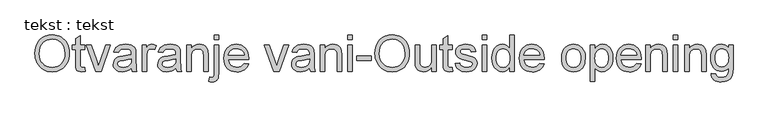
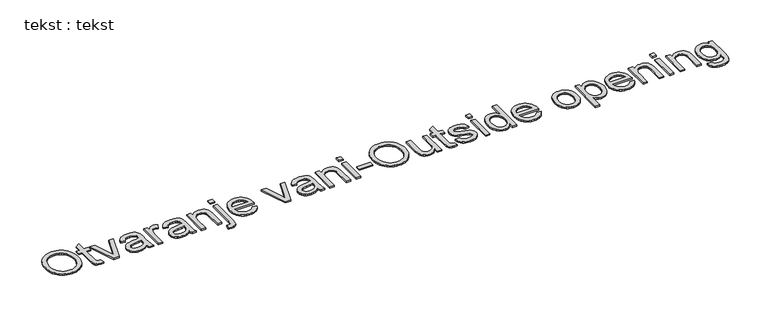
"""IFC4 building model written with IfcOpenShell, lengths in millimetres: proxy geometry, tekst : tekst."""

from ifc_helpers import new_model, si_unit, origin, origin_with_axes, place, context, project, spatial, polyline, outline, extrude, source, transform, mapped, element, save


def tekst_tekst_52195aea(model_context):
    return source(origin(), model_context, "Body", "SweptSolid", [
        extrude(outline(polyline([(-1365.7671405, 247.5300196), (-1361.5824828, 306.4447883), (-1349.0285097, 358.5997253), (-1328.1052212, 403.9948307), (-1298.8126173, 442.6301044), (-1262.9058018, 473.4785425), (-1222.1398782, 495.5131412), (-1176.5148466, 508.7339004), (-1126.0307069, 513.1408201), (-1092.2392128, 511.0714839), (-1060.149173, 504.8634752), (-1029.7605873, 494.5167941), (-1001.0734559, 480.0314405), (-974.8925206, 461.8442744), (-952.0225232, 440.3921556), (-932.4634638, 415.675084), (-916.2153424, 387.6930597), (-903.4467714, 357.0822121), (-894.3263636, 324.4786702), (-888.854119, 289.8824343), (-887.0300374, 253.2935042), (-888.9499216, 216.221729), (-894.7095741, 181.1579763), (-904.3089949, 148.1022462), (-917.748184, 117.0545386), (-934.7090768, 88.8349239), (-954.8736087, 64.2634723), (-978.2417796, 43.3401838), (-1004.8135895, 26.0650585), (-1033.5428741, 12.5453952), (-1063.3834688, 2.8884928), (-1094.3353738, -2.9056486), (-1126.3985889, -4.8370291), (-1160.7802271, -2.7025471), (-1193.2917984, 3.7008989), (-1223.9333029, 14.3733088), (-1252.7047406, 29.3146828), (-1278.8550191, 47.946373), (-1301.633046, 69.6897317), (-1321.0388212, 94.544759), (-1337.0723448, 122.5114549), (-1349.6263179, 152.4670128), (-1358.5934416, 183.2886262), (-1363.9737157, 214.9762951), (-1365.7671405, 247.5300196)]), holes=[polyline([(-1302.9819466, 246.9168829), (-1299.8434533, 205.292568), (-1290.4279735, 168.3434201), (-1274.7355072, 136.0694393), (-1252.7660543, 108.4706254), (-1226.0601207, 86.3670489), (-1196.1582123, 70.5787799), (-1163.060329, 61.1058185), (-1126.7664709, 57.9481647), (-1089.851812, 61.1364754), (-1056.3630541, 70.7014072), (-1026.3001973, 86.6429604), (-999.6632416, 108.9611347), (-977.8547371, 137.1424284), (-962.2772338, 170.6733394), (-952.9307319, 209.5538678), (-949.8152312, 253.7840135), (-955.1495202, 309.3648516), (-971.152387, 357.4041088), (-983.0510702, 378.2929083), (-997.4099644, 396.6908402), (-1014.2290693, 412.5979044), (-1033.5083851, 426.0141009), (-1054.6501036, 436.6635183), (-1077.0564163, 444.2702449), (-1100.7273235, 448.8342809), (-1125.6628249, 450.3556263), (-1160.6959208, 447.4240666), (-1193.1998279, 438.6293877), (-1223.1745463, 423.9715894), (-1250.620076, 403.4506719), (-1273.5283944, 376.0779522), (-1289.891479, 340.8647474), (-1299.7093297, 297.8110577), (-1302.9819466, 246.9168829)])]), origin_with_axes(), (0.0, 0.0, 1.0), 20.0),
        extrude(outline(polyline([(-675.1300082, 55.3729908), (-667.2818589, 1.1717101), (-714.248127, -4.8370291), (-744.3837938, -2.2311983), (-766.8552523, 5.5862941), (-782.7354918, 17.6344294), (-793.0975013, 32.9321891), (-798.7996722, 59.2050949), (-800.7003959, 104.1786688), (-800.7003959, 309.0889401), (-847.7892912, 309.0889401), (-847.7892912, 371.874134), (-800.7003959, 371.874134), (-800.7003959, 461.5147134), (-737.915202, 498.4255403), (-737.915202, 371.874134), (-675.1300082, 371.874134), (-675.1300082, 309.0889401), (-737.915202, 309.0889401), (-737.915202, 106.0180788), (-734.6042641, 73.6444632), (-723.8743725, 62.1788077), (-702.4759032, 57.9481647), (-675.1300082, 55.3729908)])), origin_with_axes(), (0.0, 0.0, 1.0), 20.0),
        extrude(outline(polyline([(-521.8458435, 3.0111201), (-651.5855605, 371.874134), (-585.1215467, 371.874134), (-506.5174271, 150.8996822), (-482.850352, 76.5875192), (-459.6737863, 146.7303529), (-380.5791574, 371.874134), (-314.1151436, 371.874134), (-442.2607052, 3.0111201), (-521.8458435, 3.0111201)])), origin_with_axes(), (0.0, 0.0, 1.0), 20.0),
        extrude(outline(polyline([(-23.7336221, 50.1000155), (-53.7313331, 24.3789327), (-84.6180923, 7.5483314), (-117.0990067, -1.740689), (-151.8791837, -4.8370291), (-179.8343832, -2.9746265), (-204.3483533, 2.6125813), (-225.4210938, 11.9245943), (-243.0526048, 24.9614125), (-256.9746391, 40.8953014), (-266.9189493, 58.8985266), (-272.8855354, 78.9710879), (-274.8743974, 101.1129855), (-271.8700278, 127.1406367), (-262.8569189, 150.7770549), (-248.9540452, 171.0105646), (-231.280381, 186.8294904), (-210.5103767, 198.7856552), (-187.3184826, 207.4308821), (-132.9945746, 216.8731867), (-68.7991665, 226.8060005), (-24.101504, 238.455597), (-23.7336221, 252.4351129), (-28.0562355, 280.4554582), (-41.0240758, 298.7882442), (-54.0992151, 306.728364), (-70.0254398, 312.3998781), (-110.4311456, 316.9370893), (-147.8324818, 313.9173913), (-173.9521034, 304.8582972), (-191.7637233, 288.104338), (-204.2410544, 262.0000447), (-267.0262482, 269.848194), (-256.1277441, 304.1838468), (-239.8642942, 331.1618598), (-216.7183854, 351.7939084), (-185.1725043, 367.091668), (-146.59088, 376.5646294), (-102.3377417, 379.7222832), (-59.8933565, 376.9325114), (-26.2474824, 368.563196), (-0.8789531, 355.9785661), (16.7333974, 340.5428507), (28.4136508, 321.4589722), (35.9858885, 297.9298529), (39.0515718, 242.9928083), (39.0515718, 164.879198), (42.2398824, 55.8021864), (46.9610347, 28.8395019), (54.7478703, 3.0111201), (-8.0373236, 3.0111201), (-18.0927648, 24.8387852), (-23.7336221, 50.1000155)]), holes=[polyline([(-23.7336221, 175.6704032), (-65.9174242, 165.2164232), (-125.0237981, 156.4179121), (-179.0411377, 146.2398436), (-193.0972956, 139.2807425), (-203.5052904, 129.6851538), (-209.9432253, 118.1888414), (-212.0892036, 105.5275694), (-207.4140366, 86.8575582), (-193.3885355, 71.5597986), (-170.3192687, 61.3510732), (-138.5128045, 57.9481647), (-104.7902883, 61.7036268), (-74.9918467, 72.9700129), (-50.8342624, 89.5706879), (-34.0343179, 109.3290167), (-26.5847075, 129.6851538), (-24.101504, 157.8894401), (-23.7336221, 175.6704032)])]), origin_with_axes(), (0.0, 0.0, 1.0), 20.0),
        extrude(outline(polyline([(125.3812133, 3.0111201), (125.3812133, 371.874134), (180.3182579, 371.874134), (180.3182579, 317.3049713), (200.6130813, 348.9428229), (219.3137494, 367.5821773), (238.0757312, 376.6872567), (258.5544956, 379.7222832), (289.8244652, 374.8785036), (321.5849441, 360.3471648), (300.6156704, 304.0612195), (278.5427507, 313.7181219), (256.4698309, 316.9370893), (237.7231776, 313.8407492), (220.9692184, 304.5517288), (207.4342267, 289.7751354), (198.3444757, 270.216076), (190.7109243, 235.1446591), (188.1664072, 196.8849316), (188.1664072, 3.0111201), (125.3812133, 3.0111201)])), origin_with_axes(), (0.0, 0.0, 1.0), 20.0),
        extrude(outline(polyline([(596.2701672, 50.1000155), (566.2724561, 24.3789327), (535.385697, 7.5483314), (502.9047825, -1.740689), (468.1246055, -4.8370291), (440.169406, -2.9746265), (415.6554359, 2.6125813), (394.5826954, 11.9245943), (376.9511844, 24.9614125), (363.0291501, 40.8953014), (353.0848399, 58.8985266), (347.1182538, 78.9710879), (345.1293918, 101.1129855), (348.1337614, 127.1406367), (357.1468703, 150.7770549), (371.049744, 171.0105646), (388.7234082, 186.8294904), (409.4934125, 198.7856552), (432.6853066, 207.4308821), (487.0092146, 216.8731867), (551.2046227, 226.8060005), (595.9022852, 238.455597), (596.2701672, 252.4351129), (591.9475537, 280.4554582), (578.9797134, 298.7882442), (565.9045741, 306.728364), (549.9783494, 312.3998781), (509.5726436, 316.9370893), (472.1713074, 313.9173913), (446.0516858, 304.8582972), (428.2400659, 288.104338), (415.7627349, 262.0000447), (352.977541, 269.848194), (363.8760451, 304.1838468), (380.139495, 331.1618598), (403.2854038, 351.7939084), (434.8312849, 367.091668), (473.4129092, 376.5646294), (517.6660475, 379.7222832), (560.1104327, 376.9325114), (593.7563069, 368.563196), (619.1248361, 355.9785661), (636.7371866, 340.5428507), (648.41744, 321.4589722), (655.9896777, 297.9298529), (659.055361, 242.9928083), (659.055361, 164.879198), (662.2436716, 55.8021864), (666.9648239, 28.8395019), (674.7516595, 3.0111201), (611.9664656, 3.0111201), (601.9110244, 24.8387852), (596.2701672, 50.1000155)]), holes=[polyline([(596.2701672, 175.6704032), (554.086365, 165.2164232), (494.9799911, 156.4179121), (440.9626515, 146.2398436), (426.9064936, 139.2807425), (416.4984988, 129.6851538), (410.0605639, 118.1888414), (407.9145856, 105.5275694), (412.5897526, 86.8575582), (426.6152537, 71.5597986), (449.6845205, 61.3510732), (481.4909847, 57.9481647), (515.2135009, 61.7036268), (545.0119425, 72.9700129), (569.1695268, 89.5706879), (585.9694713, 109.3290167), (593.4190817, 129.6851538), (595.9022852, 157.8894401), (596.2701672, 175.6704032)])]), origin_with_axes(), (0.0, 0.0, 1.0), 20.0),
        extrude(outline(polyline([(745.3850025, 3.0111201), (745.3850025, 371.874134), (808.1701964, 371.874134), (808.1701964, 320.3706546), (829.982533, 346.3369921), (856.1787967, 364.884376), (886.7589876, 376.0128064), (921.7231056, 379.7222832), (952.6711784, 376.733242), (981.0134204, 367.7661183), (1004.6498386, 353.9398867), (1021.4804399, 336.3735214), (1032.9001102, 315.1130078), (1040.3037353, 290.204331), (1043.6146733, 229.5038018), (1043.6146733, 3.0111201), (980.8294794, 3.0111201), (980.8294794, 221.0425159), (979.0207263, 253.508102), (973.5944669, 276.5926972), (963.5850109, 293.1320586), (948.0266682, 305.9619432), (928.0843984, 314.1933028), (904.9231611, 316.9370893), (885.8584431, 315.3965835), (868.15029, 310.7750659), (851.7987017, 303.0725366), (836.8036783, 292.2889957), (824.27653, 277.1981697), (815.3285669, 256.5737853), (809.959789, 230.4158426), (808.1701964, 198.7243416), (808.1701964, 3.0111201), (745.3850025, 3.0111201)])), origin_with_axes(), (0.0, 0.0, 1.0), 20.0),
        extrude(outline(polyline([(1050.8496859, -138.5008207), (1064.0934377, -78.7813101), (1092.9108606, -83.3185214), (1109.266281, -80.2068529), (1120.8085786, -70.8718472), (1127.6603808, -49.0901674), (1129.9443148, -8.6384764), (1129.9443148, 371.874134), (1192.7295087, 371.874134), (1192.7295087, -16.7318803), (1188.2842679, -74.3667262), (1182.7277169, -95.4586273), (1174.9485456, -111.4001804), (1161.7967642, -126.5829769), (1144.9048493, -137.4278315), (1124.2728007, -143.9347443), (1099.9006185, -146.1037153), (1074.9459565, -144.2029916), (1050.8496859, -138.5008207)])), origin_with_axes(), (0.0, 0.0, 1.0), 20.0),
        extrude(outline(polyline([(1129.9443148, 442.507477), (1129.9443148, 505.2926709), (1192.7295087, 505.2926709), (1192.7295087, 442.507477), (1129.9443148, 442.507477)])), origin_with_axes(), (0.0, 0.0, 1.0), 20.0),
        extrude(outline(polyline([(1545.16046, 112.8852093), (1606.7193806, 105.0370601), (1597.2809081, 80.3813022), (1584.5391619, 58.6532719), (1568.494142, 39.8529691), (1549.1458483, 23.9803938), (1526.6935503, 11.3727713), (1501.3365174, 2.3673266), (1473.0747495, -3.0359402), (1441.9082467, -4.8370291), (1402.9510763, -1.7291927), (1368.2398772, 7.5943166), (1337.7746495, 23.1334988), (1311.5553931, 44.8883539), (1290.4711563, 72.2534094), (1275.4109871, 104.6231929), (1266.3748856, 141.9977043), (1263.3628517, 184.3769437), (1266.4055424, 228.1932222), (1275.5336144, 266.8131675), (1290.7470678, 300.2367796), (1312.0459024, 328.4640585), (1338.1961809, 350.8895318), (1367.9639657, 366.907727), (1401.3492568, 376.5186441), (1438.3520541, 379.7222832), (1474.1630671, 376.5263084), (1506.548179, 366.9383839), (1535.5073898, 350.9585097), (1561.0406995, 328.5866859), (1581.8835138, 300.4207206), (1596.7712383, 267.0584222), (1605.703873, 228.4997905), (1608.6814179, 184.7448257), (1608.3135359, 167.822254), (1326.1480456, 167.822254), (1329.7847124, 142.7679572), (1337.0158929, 120.8253291), (1347.841587, 101.9943695), (1362.2617948, 86.2750784), (1379.4794386, 73.8820537), (1398.6974407, 65.0298931), (1419.9158012, 59.7185968), (1443.13452, 57.9481647), (1476.5504679, 61.2284459), (1504.6934406, 71.0692892), (1527.5634379, 88.0838315), (1545.16046, 112.8852093)]), holes=[polyline([(1326.1480456, 230.6074478), (1545.896224, 230.6074478), (1537.4042813, 263.778141), (1520.757621, 287.5065297), (1503.6357798, 300.3823996), (1484.1533625, 309.5794494), (1462.310369, 315.0976794), (1438.1067994, 316.9370893), (1395.7850416, 311.0663058), (1377.3717813, 303.7278265), (1360.7902668, 293.4539553), (1346.8758967, 280.7198733), (1336.4640699, 266.0007614), (1329.5547861, 249.2966196), (1326.1480456, 230.6074478)])]), origin_with_axes(), (0.0, 0.0, 1.0), 20.0),
        extrude(outline(polyline([(1958.1693133, 3.0111201), (1828.4295963, 371.874134), (1894.8936101, 371.874134), (1973.4977298, 150.8996822), (1997.1648048, 76.5875192), (2020.3413705, 146.7303529), (2099.4359994, 371.874134), (2165.9000132, 371.874134), (2037.7544516, 3.0111201), (1958.1693133, 3.0111201)])), origin_with_axes(), (0.0, 0.0, 1.0), 20.0),
        extrude(outline(polyline([(2456.2815348, 50.1000155), (2426.2838237, 24.3789327), (2395.3970646, 7.5483314), (2362.9161501, -1.740689), (2328.1359731, -4.8370291), (2300.1807736, -2.9746265), (2275.6668036, 2.6125813), (2254.594063, 11.9245943), (2236.962552, 24.9614125), (2223.0405177, 40.8953014), (2213.0962075, 58.8985266), (2207.1296214, 78.9710879), (2205.1407594, 101.1129855), (2208.145129, 127.1406367), (2217.1582379, 150.7770549), (2231.0611116, 171.0105646), (2248.7347758, 186.8294904), (2269.5047801, 198.7856552), (2292.6966742, 207.4308821), (2347.0205822, 216.8731867), (2411.2159904, 226.8060005), (2455.9136528, 238.455597), (2456.2815348, 252.4351129), (2451.9589213, 280.4554582), (2438.991081, 298.7882442), (2425.9159417, 306.728364), (2409.989717, 312.3998781), (2369.5840112, 316.9370893), (2332.1826751, 313.9173913), (2306.0630534, 304.8582972), (2288.2514335, 288.104338), (2275.7741025, 262.0000447), (2212.9889086, 269.848194), (2223.8874127, 304.1838468), (2240.1508626, 331.1618598), (2263.2967715, 351.7939084), (2294.8426525, 367.091668), (2333.4242768, 376.5646294), (2377.6774151, 379.7222832), (2420.1218003, 376.9325114), (2453.7676745, 368.563196), (2479.1362037, 355.9785661), (2496.7485542, 340.5428507), (2508.4288076, 321.4589722), (2516.0010453, 297.9298529), (2519.0667286, 242.9928083), (2519.0667286, 164.879198), (2522.2550392, 55.8021864), (2526.9761915, 28.8395019), (2534.7630271, 3.0111201), (2471.9778332, 3.0111201), (2461.922392, 24.8387852), (2456.2815348, 50.1000155)]), holes=[polyline([(2456.2815348, 175.6704032), (2414.0977327, 165.2164232), (2354.9913588, 156.4179121), (2300.9740191, 146.2398436), (2286.9178612, 139.2807425), (2276.5098665, 129.6851538), (2270.0719315, 118.1888414), (2267.9259532, 105.5275694), (2272.6011203, 86.8575582), (2286.6266213, 71.5597986), (2309.6958881, 61.3510732), (2341.5023523, 57.9481647), (2375.2248685, 61.7036268), (2405.0233101, 72.9700129), (2429.1808945, 89.5706879), (2445.9808389, 109.3290167), (2453.4304493, 129.6851538), (2455.9136528, 157.8894401), (2456.2815348, 175.6704032)])]), origin_with_axes(), (0.0, 0.0, 1.0), 20.0),
        extrude(outline(polyline([(2605.3963701, 3.0111201), (2605.3963701, 371.874134), (2668.181564, 371.874134), (2668.181564, 320.3706546), (2689.9939006, 346.3369921), (2716.1901644, 364.884376), (2746.7703552, 376.0128064), (2781.7344732, 379.7222832), (2812.682546, 376.733242), (2841.0247881, 367.7661183), (2864.6612062, 353.9398867), (2881.4918075, 336.3735214), (2892.9114778, 315.1130078), (2900.3151029, 290.204331), (2903.6260409, 229.5038018), (2903.6260409, 3.0111201), (2840.8408471, 3.0111201), (2840.8408471, 221.0425159), (2839.0320939, 253.508102), (2833.6058345, 276.5926972), (2823.5963785, 293.1320586), (2808.0380358, 305.9619432), (2788.095766, 314.1933028), (2764.9345287, 316.9370893), (2745.8698107, 315.3965835), (2728.1616576, 310.7750659), (2711.8100694, 303.0725366), (2696.8150459, 292.2889957), (2684.2878976, 277.1981697), (2675.3399345, 256.5737853), (2669.9711566, 230.4158426), (2668.181564, 198.7243416), (2668.181564, 3.0111201), (2605.3963701, 3.0111201)])), origin_with_axes(), (0.0, 0.0, 1.0), 20.0),
        extrude(outline(polyline([(2989.9556824, 3.0111201), (2989.9556824, 371.874134), (3052.7408763, 371.874134), (3052.7408763, 3.0111201), (2989.9556824, 3.0111201)])), origin_with_axes(), (0.0, 0.0, 1.0), 20.0),
        extrude(outline(polyline([(2989.9556824, 442.507477), (2989.9556824, 505.2926709), (3052.7408763, 505.2926709), (3052.7408763, 442.507477), (2989.9556824, 442.507477)])), origin_with_axes(), (0.0, 0.0, 1.0), 20.0),
        extrude(outline(polyline([(3115.5260701, 152.1259555), (3115.5260701, 214.9111493), (3311.7298009, 214.9111493), (3311.7298009, 152.1259555), (3115.5260701, 152.1259555)])), origin_with_axes(), (0.0, 0.0, 1.0), 20.0),
        extrude(outline(polyline([(3366.6668455, 247.5300196), (3370.8515032, 306.4447883), (3383.4054763, 358.5997253), (3404.3287648, 403.9948307), (3433.6213686, 442.6301044), (3469.5281842, 473.4785425), (3510.2941078, 495.5131412), (3555.9191394, 508.7339004), (3606.403279, 513.1408201), (3640.1947731, 511.0714839), (3672.284813, 504.8634752), (3702.6733986, 494.5167941), (3731.36053, 480.0314405), (3757.5414654, 461.8442744), (3780.4114627, 440.3921556), (3799.9705221, 415.675084), (3816.2186436, 387.6930597), (3828.9872145, 357.0822121), (3838.1076223, 324.4786702), (3843.579867, 289.8824343), (3845.4039486, 253.2935042), (3843.4840644, 216.221729), (3837.7244119, 181.1579763), (3828.1249911, 148.1022462), (3814.685802, 117.0545386), (3797.7249091, 88.8349239), (3777.5603773, 64.2634723), (3754.1922064, 43.3401838), (3727.6203964, 26.0650585), (3698.8911119, 12.5453952), (3669.0505171, 2.8884928), (3638.0986122, -2.9056486), (3606.035397, -4.8370291), (3571.6537589, -2.7025471), (3539.1421876, 3.7008989), (3508.5006831, 14.3733088), (3479.7292453, 29.3146828), (3453.5789669, 47.946373), (3430.80094, 69.6897317), (3411.3951647, 94.544759), (3395.3616411, 122.5114549), (3382.807668, 152.4670128), (3373.8405444, 183.2886262), (3368.4602702, 214.9762951), (3366.6668455, 247.5300196)]), holes=[polyline([(3429.4520393, 246.9168829), (3432.5905326, 205.292568), (3442.0060124, 168.3434201), (3457.6984788, 136.0694393), (3479.6679317, 108.4706254), (3506.3738653, 86.3670489), (3536.2757737, 70.5787799), (3569.3736569, 61.1058185), (3605.667515, 57.9481647), (3642.582174, 61.1364754), (3676.0709319, 70.7014072), (3706.1337887, 86.6429604), (3732.7707444, 108.9611347), (3754.5792489, 137.1424284), (3770.1567521, 170.6733394), (3779.5032541, 209.5538678), (3782.6187547, 253.7840135), (3777.2844658, 309.3648516), (3761.281599, 357.4041088), (3749.3829157, 378.2929083), (3735.0240216, 396.6908402), (3718.2049166, 412.5979044), (3698.9256008, 426.0141009), (3677.7838824, 436.6635183), (3655.3775696, 444.2702449), (3631.7066625, 448.8342809), (3606.771161, 450.3556263), (3571.7380652, 447.4240666), (3539.2341581, 438.6293877), (3509.2594397, 423.9715894), (3481.81391, 403.4506719), (3458.9055916, 376.0779522), (3442.542507, 340.8647474), (3432.7246563, 297.8110577), (3429.4520393, 246.9168829)])]), origin_with_axes(), (0.0, 0.0, 1.0), 20.0),
        extrude(outline(polyline([(4159.3299178, 3.0111201), (4159.3299178, 66.4094506), (4136.6132046, 35.2391157), (4110.1563577, 12.9745908), (4079.9593773, -0.3841241), (4046.0222633, -4.8370291), (4015.4420724, -1.7100321), (3986.977203, 7.6709587), (3963.0955302, 21.7731019), (3946.2649289, 39.0635557), (3934.9372291, 60.0634862), (3927.5642608, 85.2940597), (3923.8854409, 143.6646696), (3923.8854409, 371.874134), (3986.6706347, 371.874134), (3986.6706347, 173.2178566), (3990.472082, 109.2063894), (3999.6231466, 87.8539053), (4015.3041167, 71.6211122), (4036.4726598, 61.3664016), (4062.0864437, 57.9481647), (4089.1717556, 61.4430437), (4114.509628, 71.9276806), (4135.4022597, 88.4363851), (4149.1518492, 110.0034671), (4156.7854006, 139.5413256), (4159.3299178, 179.9623598), (4159.3299178, 371.874134), (4222.1151116, 371.874134), (4222.1151116, 3.0111201), (4159.3299178, 3.0111201)])), origin_with_axes(), (0.0, 0.0, 1.0), 20.0),
        extrude(outline(polyline([(4441.8632901, 55.3729908), (4449.7114393, 1.1717101), (4402.7451712, -4.8370291), (4372.6095045, -2.2311983), (4350.1380459, 5.5862941), (4334.2578065, 17.6344294), (4323.8957969, 32.9321891), (4318.193626, 59.2050949), (4316.2929024, 104.1786688), (4316.2929024, 309.0889401), (4269.204007, 309.0889401), (4269.204007, 371.874134), (4316.2929024, 371.874134), (4316.2929024, 461.5147134), (4379.0780962, 498.4255403), (4379.0780962, 371.874134), (4441.8632901, 371.874134), (4441.8632901, 309.0889401), (4379.0780962, 309.0889401), (4379.0780962, 106.0180788), (4382.3890342, 73.6444632), (4393.1189257, 62.1788077), (4414.5173951, 57.9481647), (4441.8632901, 55.3729908)])), origin_with_axes(), (0.0, 0.0, 1.0), 20.0),
        extrude(outline(polyline([(4481.1040362, 112.8852093), (4543.8892301, 120.7333586), (4553.7913871, 93.8779729), (4572.9519077, 74.1349725), (4601.4934191, 61.9948667), (4639.5385488, 57.9481647), (4677.123826, 61.6576415), (4703.550016, 72.7860719), (4719.1850008, 88.911566), (4724.3966624, 107.6122341), (4719.1543439, 123.6151009), (4703.4273886, 135.8165204), (4638.8027848, 153.7201108), (4581.5051641, 170.290129), (4544.2571121, 184.4382574), (4520.329454, 199.8739728), (4502.9930149, 220.3067519), (4492.4623928, 244.4336795), (4488.9521854, 270.9518399), (4491.7726141, 295.2780369), (4500.2339, 317.734167), (4513.5696223, 337.4311822), (4531.0133602, 353.4800342), (4548.3497993, 363.5814606), (4570.9285567, 372.058075), (4597.0328499, 377.8062311), (4624.9458963, 379.7222832), (4665.8114546, 376.6412715), (4701.342724, 367.3982363), (4729.9148923, 352.8975544), (4749.9031474, 334.0436021), (4763.1468992, 309.4414937), (4771.4855577, 277.6963432), (4708.7003639, 269.848194), (4700.7755726, 289.6065228), (4685.0946025, 304.4904152), (4661.5041696, 313.8254208), (4629.8509896, 316.9370893), (4593.7985541, 313.9633765), (4569.7635971, 305.0422382), (4556.2439337, 292.1663683), (4551.7373793, 277.3284612), (4553.6074461, 267.6715588), (4559.2176465, 259.0569888), (4568.8132352, 251.3621237), (4582.6394669, 245.2001003), (4636.7181202, 231.8337211), (4728.87256, 202.2805342), (4753.2140853, 188.1477342), (4771.6694987, 168.8032726), (4783.3037668, 144.1858358), (4787.1818562, 114.23411), (4782.6293165, 83.2707087), (4768.9716974, 54.1467175), (4746.7301652, 29.1460702), (4716.4258858, 10.552701), (4679.8216273, -0.9895966), (4638.6801575, -4.8370291), (4604.8886634, -2.9822907), (4575.3737975, 2.5819245), (4550.1355598, 11.8556164), (4529.1739503, 24.8387852), (4512.0521091, 41.470117), (4498.3331763, 61.6882984), (4488.017152, 85.4933291), (4481.1040362, 112.8852093)])), origin_with_axes(), (0.0, 0.0, 1.0), 20.0),
        extrude(outline(polyline([(4857.8151993, 3.0111201), (4857.8151993, 371.874134), (4920.6003931, 371.874134), (4920.6003931, 3.0111201), (4857.8151993, 3.0111201)])), origin_with_axes(), (0.0, 0.0, 1.0), 20.0),
        extrude(outline(polyline([(4857.8151993, 442.507477), (4857.8151993, 505.2926709), (4920.6003931, 505.2926709), (4920.6003931, 442.507477), (4857.8151993, 442.507477)])), origin_with_axes(), (0.0, 0.0, 1.0), 20.0),
        extrude(outline(polyline([(5242.3745116, 3.0111201), (5242.3745116, 62.2401213), (5223.5895372, 32.893868), (5200.8345029, 11.9322585), (5174.1094088, -0.6447072), (5143.4142549, -4.8370291), (5102.8246081, 1.2330238), (5065.6685266, 19.4431826), (5034.214616, 48.5211886), (5010.7314819, 87.1947834), (4996.1081726, 133.9004683), (4991.2337362, 187.074745), (4995.7249622, 239.5898999), (5009.1986403, 287.0160204), (5019.3000667, 308.1462425), (5031.639442, 326.6553054), (5046.2167661, 342.543209), (5063.0320389, 355.8099535), (5101.0005265, 373.7442008), (5143.1690002, 379.7222832), (5173.8871468, 375.445655), (5201.0491008, 362.6157704), (5224.0723823, 342.9494121), (5242.3745116, 318.1633627), (5242.3745116, 505.2926709), (5305.1597054, 505.2926709), (5305.1597054, 3.0111201), (5242.3745116, 3.0111201)]), holes=[polyline([(5054.01893, 187.3199997), (5055.7893621, 156.8739325), (5061.1006584, 130.5282167), (5069.952819, 108.2828523), (5082.3458437, 90.1378393), (5097.1454298, 76.0548567), (5113.2172744, 65.9955834), (5130.5613777, 59.9600194), (5149.1777395, 57.9481647), (5167.8822397, 59.8680489), (5185.1228761, 65.6277014), (5200.8996487, 75.2271222), (5215.2125576, 88.6663113), (5227.0959125, 106.0525677), (5235.5840231, 127.4931902), (5240.6768894, 152.9881789), (5242.3745116, 182.5375338), (5240.6462326, 214.934142), (5235.4613957, 242.7168968), (5226.820001, 265.8857983), (5214.7220483, 284.4408464), (5200.0949069, 298.6579527), (5183.8659459, 308.8130286), (5166.0351655, 314.9060742), (5146.6025655, 316.9370893), (5127.6183217, 314.9865483), (5110.2742185, 309.1349254), (5094.5702558, 299.3822204), (5080.5064337, 285.7284334), (5068.9181508, 267.8746603), (5060.640806, 245.521997), (5055.674399, 218.6704435), (5054.01893, 187.3199997)])]), origin_with_axes(), (0.0, 0.0, 1.0), 20.0),
        extrude(outline(polyline([(5657.5906568, 112.8852093), (5719.1495773, 105.0370601), (5709.7111049, 80.3813022), (5696.9693587, 58.6532719), (5680.9243388, 39.8529691), (5661.5760451, 23.9803938), (5639.1237471, 11.3727713), (5613.7667141, 2.3673266), (5585.5049463, -3.0359402), (5554.3384435, -4.8370291), (5515.381273, -1.7291927), (5480.6700739, 7.5943166), (5450.2048462, 23.1334988), (5423.9855899, 44.8883539), (5402.901353, 72.2534094), (5387.8411838, 104.6231929), (5378.8050823, 141.9977043), (5375.7930485, 184.3769437), (5378.8357392, 228.1932222), (5387.9638112, 266.8131675), (5403.1772645, 300.2367796), (5424.4760992, 328.4640585), (5450.6263777, 350.8895318), (5480.3941625, 366.907727), (5513.7794535, 376.5186441), (5550.7822509, 379.7222832), (5586.5932638, 376.5263084), (5618.9783757, 366.9383839), (5647.9375865, 350.9585097), (5673.4708963, 328.5866859), (5694.3137105, 300.4207206), (5709.201435, 267.0584222), (5718.1340697, 228.4997905), (5721.1116146, 184.7448257), (5720.7437326, 167.822254), (5438.5782423, 167.822254), (5442.2149091, 142.7679572), (5449.4460896, 120.8253291), (5460.2717837, 101.9943695), (5474.6919915, 86.2750784), (5491.9096353, 73.8820537), (5511.1276375, 65.0298931), (5532.345998, 59.7185968), (5555.5647168, 57.9481647), (5588.9806647, 61.2284459), (5617.1236373, 71.0692892), (5639.9936347, 88.0838315), (5657.5906568, 112.8852093)]), holes=[polyline([(5438.5782423, 230.6074478), (5658.3264208, 230.6074478), (5649.8344781, 263.778141), (5633.1878178, 287.5065297), (5616.0659766, 300.3823996), (5596.5835593, 309.5794494), (5574.7405658, 315.0976794), (5550.5369962, 316.9370893), (5508.2152383, 311.0663058), (5489.8019781, 303.7278265), (5473.2204635, 293.4539553), (5459.3060935, 280.7198733), (5448.8942666, 266.0007614), (5441.9849829, 249.2966196), (5438.5782423, 230.6074478)])]), origin_with_axes(), (0.0, 0.0, 1.0), 20.0),
        extrude(outline(polyline([(5964.4042408, 187.442627), (5967.799485, 235.213637), (5977.9852178, 276.3780994), (5994.961439, 310.9360143), (6018.7281487, 338.8873817), (6042.6558068, 356.7526511), (6069.0666684, 369.5135578), (6097.9607334, 377.1701018), (6129.3380019, 379.7222832), (6163.9763911, 376.6144467), (6195.296178, 367.2909374), (6223.2973628, 351.7517552), (6247.9799454, 329.9969002), (6268.1253167, 302.7621362), (6282.5148677, 270.7832274), (6291.1485983, 234.0601736), (6294.0265084, 192.592975), (6288.9374742, 129.1639876), (6282.5761814, 103.1286723), (6273.6703714, 80.8794758), (6262.3311753, 61.6614736), (6248.6697241, 44.7197413), (6232.6860179, 30.0542789), (6214.3800565, 17.6650863), (6173.6524539, 0.7884997), (6129.3380019, -4.8370291), (6094.1937751, -1.740689), (6062.5827482, 7.5483314), (6034.5049214, 23.030032), (6009.9602945, 44.7044129), (5990.029521, 72.203592), (5975.7932542, 105.1596875), (5967.2514941, 143.5726991), (5964.4042408, 187.442627)]), holes=[polyline([(6027.1894346, 187.5652544), (6029.005852, 157.111523), (6034.455104, 130.7428145), (6043.5371908, 108.4591291), (6056.2521122, 90.2604666), (6071.7184844, 76.1238346), (6089.0549235, 66.0262402), (6108.2614293, 59.9676836), (6129.3380019, 57.9481647), (6150.3072757, 59.9791799), (6169.4371394, 66.0722255), (6186.7275932, 76.2273014), (6202.178637, 90.4444076), (6214.8935584, 108.823179), (6223.9756452, 131.4632501), (6229.4248973, 158.364621), (6231.2413146, 189.5272917), (6229.4134009, 219.0153329), (6223.92966, 244.6942625), (6214.7900916, 266.5640807), (6201.994696, 284.6247874), (6186.4861706, 298.7614195), (6169.2072132, 308.8590139), (6150.1578236, 314.9175705), (6129.3380019, 316.9370893), (6108.2614293, 314.9252347), (6089.0549235, 308.8896707), (6071.7184844, 298.8303974), (6056.2521122, 284.7474148), (6043.5371908, 266.6024018), (6034.455104, 244.3570374), (6029.005852, 218.0113216), (6027.1894346, 187.5652544)])]), origin_with_axes(), (0.0, 0.0, 1.0), 20.0),
        extrude(outline(polyline([(6364.6598515, -138.255566), (6364.6598515, 371.874134), (6427.4450454, 371.874134), (6427.4450454, 310.3152134), (6447.9238098, 340.6808064), (6470.8551208, 362.3705157), (6497.5878791, 375.3843413), (6529.4709854, 379.7222832), (6551.3676283, 378.20477), (6571.930699, 373.6522303), (6591.1601974, 366.0646641), (6609.0561237, 355.4420715), (6625.227603, 342.0603639), (6639.2837609, 326.1954529), (6661.0501123, 287.0160204), (6674.2018936, 240.7548595), (6678.5858207, 190.2630557), (6673.6347422, 136.5676128), (6658.7815067, 88.543684), (6647.7603752, 67.2678419), (6634.501295, 48.6284875), (6619.0042659, 32.6256207), (6601.2692881, 19.2592416), (6562.5650365, 1.1870386), (6521.8680908, -4.8370291), (6493.0046826, -0.8056556), (6467.2376145, 11.288465), (6445.1800232, 29.544609), (6427.4450454, 52.0620528), (6427.4450454, -138.255566), (6364.6598515, -138.255566)]), holes=[polyline([(6427.4450454, 184.4995711), (6429.1426675, 154.241277), (6434.2355339, 128.2136258), (6442.7236445, 106.4166176), (6454.6069993, 88.8502523), (6468.912244, 75.330589), (6484.666024, 65.6736866), (6501.8683394, 59.8795452), (6520.5191901, 57.9481647), (6539.4382882, 59.9485231), (6556.9548361, 65.9495981), (6573.0688339, 75.9513899), (6587.7802816, 89.9538983), (6600.0391827, 108.1563929), (6608.7955406, 130.7581429), (6614.0493553, 157.7591486), (6615.8006269, 189.1594097), (6614.0915085, 219.1571207), (6608.9641532, 245.1387866), (6600.418561, 267.1044074), (6588.4547319, 285.0539831), (6574.1149983, 299.0028421), (6558.4416925, 308.9663128), (6541.4348144, 314.9443952), (6523.0943641, 316.9370893), (6504.8113954, 314.8179358), (6487.60908, 308.460475), (6471.487418, 297.8647072), (6456.4464093, 283.0306321), (6443.7583126, 264.1575193), (6434.6953864, 241.4446382), (6429.2576306, 214.8919888), (6427.4450454, 184.4995711)])]), origin_with_axes(), (0.0, 0.0, 1.0), 20.0),
        extrude(outline(polyline([(7007.4723244, 112.8852093), (7069.031245, 105.0370601), (7059.5927725, 80.3813022), (7046.8510263, 58.6532719), (7030.8060064, 39.8529691), (7011.4577127, 23.9803938), (6989.0054147, 11.3727713), (6963.6483818, 2.3673266), (6935.3866139, -3.0359402), (6904.2201111, -4.8370291), (6865.2629407, -1.7291927), (6830.5517416, 7.5943166), (6800.0865139, 23.1334988), (6773.8672575, 44.8883539), (6752.7830206, 72.2534094), (6737.7228515, 104.6231929), (6728.68675, 141.9977043), (6725.6747161, 184.3769437), (6728.7174068, 228.1932222), (6737.8454788, 266.8131675), (6753.0589321, 300.2367796), (6774.3577668, 328.4640585), (6800.5080453, 350.8895318), (6830.2758301, 366.907727), (6863.6611211, 376.5186441), (6900.6639185, 379.7222832), (6936.4749315, 376.5263084), (6968.8600434, 366.9383839), (6997.8192542, 350.9585097), (7023.3525639, 328.5866859), (7044.1953782, 300.4207206), (7059.0831027, 267.0584222), (7068.0157374, 228.4997905), (7070.9932823, 184.7448257), (7070.6254003, 167.822254), (6788.45991, 167.822254), (6792.0965768, 142.7679572), (6799.3277572, 120.8253291), (6810.1534514, 101.9943695), (6824.5736592, 86.2750784), (6841.791303, 73.8820537), (6861.0093051, 65.0298931), (6882.2276656, 59.7185968), (6905.4463844, 57.9481647), (6938.8623323, 61.2284459), (6967.005305, 71.0692892), (6989.8753023, 88.0838315), (7007.4723244, 112.8852093)]), holes=[polyline([(6788.45991, 230.6074478), (7008.2080884, 230.6074478), (6999.7161457, 263.778141), (6983.0694854, 287.5065297), (6965.9476442, 300.3823996), (6946.4652269, 309.5794494), (6924.6222334, 315.0976794), (6900.4186638, 316.9370893), (6858.096906, 311.0663058), (6839.6836457, 303.7278265), (6823.1021312, 293.4539553), (6809.1877611, 280.7198733), (6798.7759342, 266.0007614), (6791.8666505, 249.2966196), (6788.45991, 230.6074478)])]), origin_with_axes(), (0.0, 0.0, 1.0), 20.0),
        extrude(outline(polyline([(7133.7784761, 3.0111201), (7133.7784761, 371.874134), (7196.56367, 371.874134), (7196.56367, 320.3706546), (7218.3760066, 346.3369921), (7244.5722703, 364.884376), (7275.1524612, 376.0128064), (7310.1165791, 379.7222832), (7341.064652, 376.733242), (7369.406894, 367.7661183), (7393.0433122, 353.9398867), (7409.8739135, 336.3735214), (7421.2935838, 315.1130078), (7428.6972089, 290.204331), (7432.0081469, 229.5038018), (7432.0081469, 3.0111201), (7369.222953, 3.0111201), (7369.222953, 221.0425159), (7367.4141999, 253.508102), (7361.9879404, 276.5926972), (7351.9784845, 293.1320586), (7336.4201418, 305.9619432), (7316.477872, 314.1933028), (7293.3166347, 316.9370893), (7274.2519167, 315.3965835), (7256.5437636, 310.7750659), (7240.1921753, 303.0725366), (7225.1971519, 292.2889957), (7212.6700036, 277.1981697), (7203.7220404, 256.5737853), (7198.3532626, 230.4158426), (7196.56367, 198.7243416), (7196.56367, 3.0111201), (7133.7784761, 3.0111201)])), origin_with_axes(), (0.0, 0.0, 1.0), 20.0),
        extrude(outline(polyline([(7518.3377884, 3.0111201), (7518.3377884, 371.874134), (7581.1229822, 371.874134), (7581.1229822, 3.0111201), (7518.3377884, 3.0111201)])), origin_with_axes(), (0.0, 0.0, 1.0), 20.0),
        extrude(outline(polyline([(7518.3377884, 442.507477), (7518.3377884, 505.2926709), (7581.1229822, 505.2926709), (7581.1229822, 442.507477), (7518.3377884, 442.507477)])), origin_with_axes(), (0.0, 0.0, 1.0), 20.0),
        extrude(outline(polyline([(7675.300773, 3.0111201), (7675.300773, 371.874134), (7738.0859669, 371.874134), (7738.0859669, 320.3706546), (7759.8983035, 346.3369921), (7786.0945672, 364.884376), (7816.6747581, 376.0128064), (7851.638876, 379.7222832), (7882.5869489, 376.733242), (7910.9291909, 367.7661183), (7934.5656091, 353.9398867), (7951.3962104, 336.3735214), (7962.8158807, 315.1130078), (7970.2195058, 290.204331), (7973.5304438, 229.5038018), (7973.5304438, 3.0111201), (7910.7452499, 3.0111201), (7910.7452499, 221.0425159), (7908.9364968, 253.508102), (7903.5102373, 276.5926972), (7893.5007814, 293.1320586), (7877.9424387, 305.9619432), (7858.0001689, 314.1933028), (7834.8389316, 316.9370893), (7815.7742136, 315.3965835), (7798.0660605, 310.7750659), (7781.7144722, 303.0725366), (7766.7194488, 292.2889957), (7754.1923005, 277.1981697), (7745.2443373, 256.5737853), (7739.8755595, 230.4158426), (7738.0859669, 198.7243416), (7738.0859669, 3.0111201), (7675.300773, 3.0111201)])), origin_with_axes(), (0.0, 0.0, 1.0), 20.0),
        extrude(outline(polyline([(8044.1637868, -28.3814768), (8106.9489807, -36.229626), (8113.8774249, -55.8499991), (8127.3051177, -69.3390056), (8153.7006509, -79.8236425), (8188.2509016, -83.3185214), (8225.1004148, -79.36379), (8252.5076234, -67.4995956), (8271.5148599, -48.4923592), (8283.1644564, -23.1085015), (8286.5673648, 3.9001683), (8287.456413, 50.1000155), (8266.5637813, 29.4986238), (8243.2492599, 14.783344), (8217.5128486, 5.9541761), (8189.3545476, 3.0111201), (8154.9307563, 6.4370212), (8124.6226449, 16.7147244), (8098.4302132, 33.8442298), (8076.3534614, 57.8255374), (8058.8369135, 86.5969751), (8046.3250936, 118.0968709), (8038.8180016, 152.3252249), (8036.3156376, 189.282037), (8040.8068636, 239.9731103), (8054.2805417, 286.5868247), (8076.2614909, 326.088154), (8090.2639994, 342.0335392), (8106.2745304, 355.4420715), (8124.0363329, 366.0646641), (8143.2926561, 373.6522303), (8164.0434999, 378.20477), (8186.2888643, 379.7222832), (8215.650446, 376.2887179), (8242.2988981, 365.988022), (8266.2342204, 348.8201956), (8287.456413, 324.7852386), (8287.456413, 371.874134), (8350.2416068, 371.874134), (8350.2416068, 53.4109535), (8345.9496502, -20.1194603), (8340.5847045, -47.4691874), (8333.0737804, -68.5419279), (8310.8935618, -100.6549604), (8278.6885588, -125.2570689), (8259.0030399, -134.3774767), (8237.1638786, -140.8920537), (8187.0246283, -146.1037153), (8156.2643286, -144.2681374), (8128.6080331, -138.7614038), (8104.0557421, -129.5835144), (8082.6074553, -116.7344693), (8065.2825126, -100.19894), (8053.1002536, -79.9615982), (8046.0606784, -56.0224438), (8044.1637868, -28.3814768)]), holes=[polyline([(8099.1008315, 193.5739936), (8100.7754609, 162.5301182), (8105.7993494, 135.985133), (8114.1724969, 113.939038), (8125.8949034, 96.3918332), (8140.1464986, 83.0062936), (8156.1072123, 73.4451938), (8173.7770444, 67.7085339), (8193.1559949, 65.796314), (8212.3433402, 67.6970376), (8229.928866, 73.3992085), (8245.9125723, 82.9028267), (8260.294459, 96.2078922), (8272.1778139, 113.5826523), (8280.6659245, 135.2953542), (8285.7587909, 161.345998), (8287.456413, 191.7345836), (8285.7089735, 220.8547428), (8280.4666551, 246.1657905), (8271.7294577, 267.6677267), (8259.4973813, 285.3605514), (8244.8050942, 299.1752868), (8228.6872643, 309.0429549), (8211.1438916, 314.9635557), (8192.1749762, 316.9370893), (8173.5241255, 314.9942126), (8156.3218101, 309.1655822), (8140.5680301, 299.4511983), (8126.2627854, 285.8510607), (8114.3794306, 268.4264833), (8105.8913199, 247.2387797), (8100.7984536, 222.2879498), (8099.1008315, 193.5739936)])]), origin_with_axes(), (0.0, 0.0, 1.0), 20.0),
    ])


if __name__ == "__main__":
    model = new_model("IFC4")
    model_context = context("Model", 3, world=origin())
    ifc_project = project(units=[si_unit("LENGTHUNIT", "METRE", prefix="MILLI")], contexts=[model_context])
    site = spatial("IfcSite", under=ifc_project)
    building = spatial("IfcBuilding", under=site)
    placement = place(None, origin())
    tekst_tekst_shape = tekst_tekst_52195aea(model_context)
    element("IfcBuildingElementProxy", 1, Name="tekst : tekst", ObjectType="tekst : tekst", at=placement, inside=building, context=model_context, shape_type="MappedRepresentation", body=[
        mapped(tekst_tekst_shape, transform((0.0, 0.0, 0.0), x_axis=(1.0, 0.0, 0.0), y_axis=(0.0, 1.0, 0.0), z_axis=(0.0, 0.0, 1.0))),
    ])
    save(model, "model.ifc")
